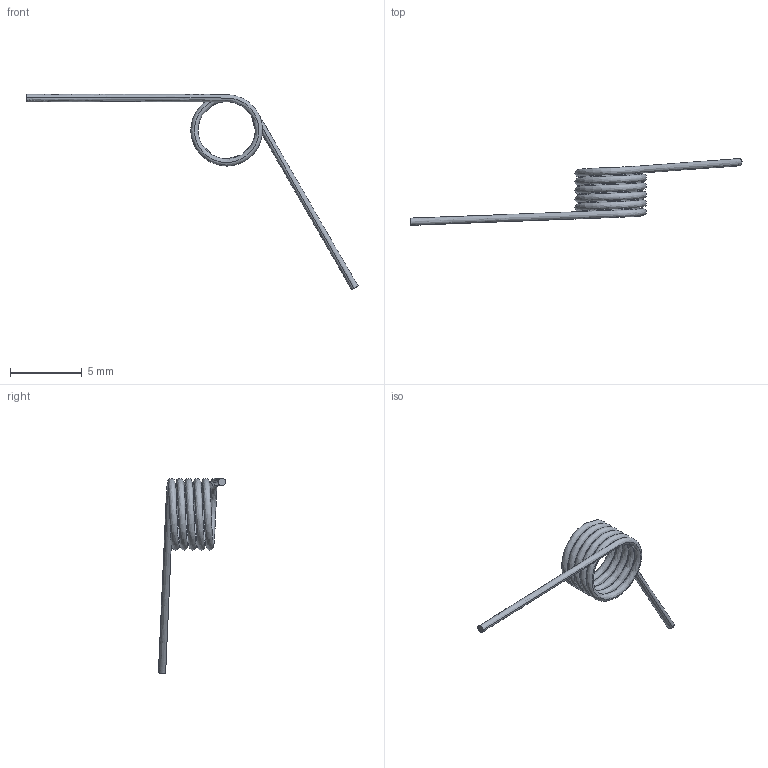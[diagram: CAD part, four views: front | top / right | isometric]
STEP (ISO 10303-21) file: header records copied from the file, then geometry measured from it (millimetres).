
FILE_DESCRIPTION (( 'STEP AP203' ), '1' );
FILE_NAME ('0.5_5_5_120.STEP', '2024-07-06T14:28:42', ( '' ), ( '' ), 'SwSTEP 2.0', 'SolidWorks 2020', '' );
FILE_SCHEMA (( 'CONFIG_CONTROL_DESIGN' ));
Length unit declared in the file: millimetre
Products named in the file (1): 0.5_5_5_120
Bounding box: 23.17 x 4.69 x 13.63 mm (x, y, z)
Volume: 19.9 mm3; surface area: 158.3 mm2
Topology: 1 solids, 1 shells, 4 faces, 6 edges, 4 vertices
Faces by surface type: bspline 2, plane 2
Entity records: 1249 total; most frequent: CARTESIAN_POINT 1119, ORIENTED_EDGE 12, PERSON_AND_ORGANIZATION 8, EDGE_CURVE 6, DIRECTION 6, LOCAL_TIME 5, PERSON_AND_ORGANIZATION_ROLE 5, DATE_AND_TIME 5
